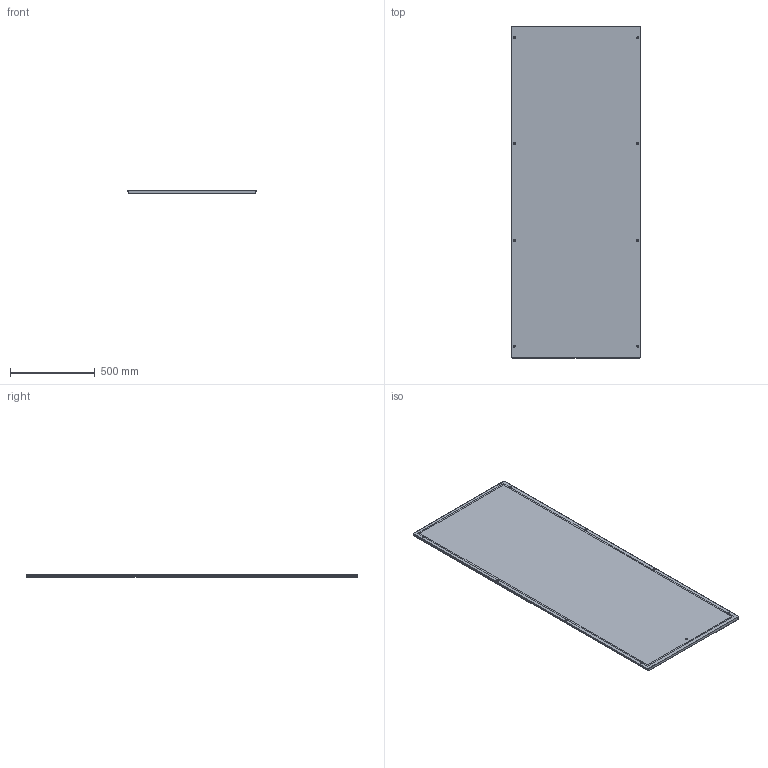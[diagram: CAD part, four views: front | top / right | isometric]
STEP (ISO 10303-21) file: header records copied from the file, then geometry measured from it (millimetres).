
FILE_DESCRIPTION( ( 'STEP AP214' ), '1' );
FILE_NAME( 'p:/temp/worker_207/temp/exporttempdir_3824_248_TYuhD/format_0/SPM2008R5(0).stp', '2021-03-16T12:01:46', ( 'License CC BY-ND 4.0' ), ( 'CADENAS' ), ' ', 'PARTsolutions', ' ' );
FILE_SCHEMA( ( 'AUTOMOTIVE_DESIGN { 1 0 10303 214 1 1 1 1 }' ) );
Length unit declared in the file: millimetre
Products named in the file (1): _SPM2008R5(0)
Bounding box: 762 x 1964 x 19.32 mm (x, y, z)
Volume: 2654105.6 mm3; surface area: 3249178.3 mm2
Topology: 1 solids, 1 shells, 106 faces, 311 edges, 204 vertices
Faces by surface type: plane 73, cone 26, cylinder 5, torus 2
Full cylindrical faces by diameter (mm): 8 x1, 9 x1
Entity records: 4239 total; most frequent: CARTESIAN_POINT 679, ORIENTED_EDGE 560, DIRECTION 525, EDGE_CURVE 280, VERTEX_POINT 196, LINE 185, VECTOR 185, AXIS2_PLACEMENT_3D 170
